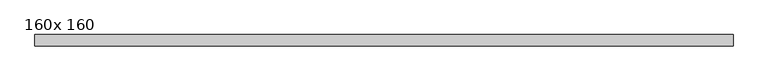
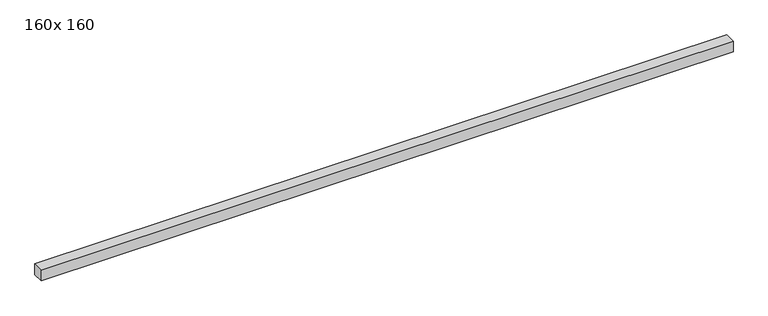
"""IFC4 building model written with IfcOpenShell, lengths in millimetres: beam geometry, Belka drewniana : 160x 160."""

from ifc_helpers import new_model, si_unit, frame, origin, place, context, project, spatial, polyline, outline, extrude, source, transform, mapped, element, save


def beam_160x_160_f767da69(model_context):
    return source(origin(), model_context, "Body", "SweptSolid", [
        extrude(outline(polyline([(4980.0, 80.0), (4980.0, -80.0), (-4931.0, -80.0), (-4931.0, 80.0), (4980.0, 80.0)])), frame((0.0, 0.0, -80.0), z_axis=(0.0, 0.0, 1.0), x_axis=(1.0, 0.0, 0.0)), (0.0, 0.0, 1.0), 160.0),
    ])


if __name__ == "__main__":
    model = new_model("IFC4")
    model_context = context("Model", 3, world=origin())
    ifc_project = project(units=[si_unit("LENGTHUNIT", "METRE", prefix="MILLI")], contexts=[model_context])
    site = spatial("IfcSite", under=ifc_project)
    building = spatial("IfcBuilding", under=site)
    placement = place(None, origin())
    beam_160x_160_shape = beam_160x_160_f767da69(model_context)
    element("IfcBeam", 1, ObjectType="Belka drewniana : 160x 160", at=placement, inside=building, context=model_context, shape_type="MappedRepresentation", body=[
        mapped(beam_160x_160_shape, transform((0.0, 0.0, 0.0), x_axis=(1.0, 0.0, 0.0), y_axis=(0.0, 1.0, 0.0), z_axis=(0.0, 0.0, 1.0))),
    ])
    save(model, "model.ifc")
